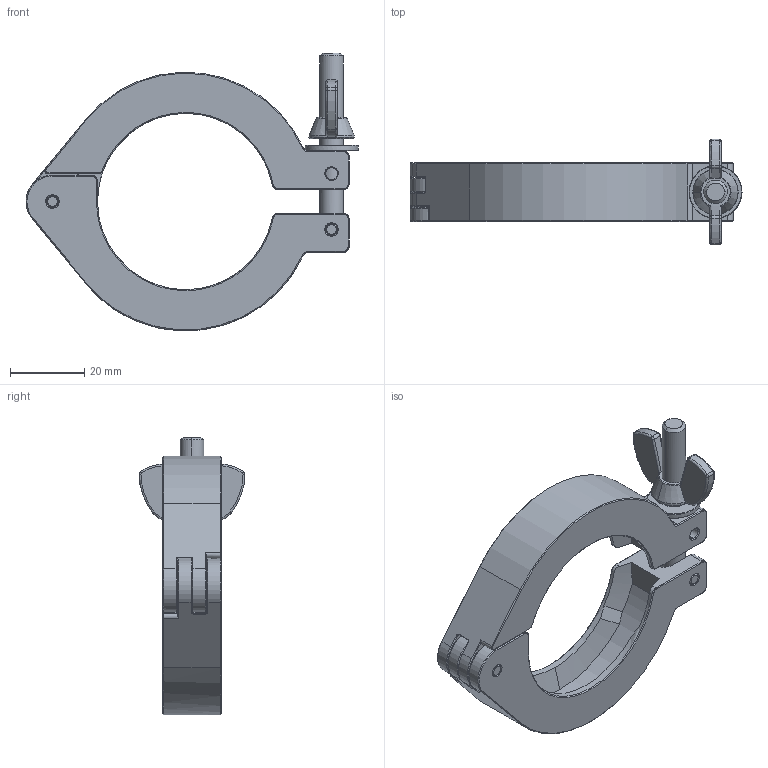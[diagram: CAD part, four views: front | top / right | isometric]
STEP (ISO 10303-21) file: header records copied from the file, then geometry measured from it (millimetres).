
FILE_DESCRIPTION (( 'STEP AP203' ), '1' );
FILE_NAME ('202225.stp', '2019-01-22T22:17:42', ( '' ), ( '' ), 'SwSTEP 2.0', 'SolidWorks 2012', '' );
FILE_SCHEMA (( 'CONFIG_CONTROL_DESIGN' ));
Length unit declared in the file: centimetre
Products named in the file (1): 202225
Bounding box: 89.66 x 28.57 x 75.01 mm (x, y, z)
Volume: 27031.8 mm3; surface area: 16606.2 mm2
Topology: 1 solids, 2 shells, 341 faces, 881 edges, 548 vertices
Faces by surface type: cone 117, plane 106, cylinder 78, bspline 40
Entity records: 15410 total; most frequent: CARTESIAN_POINT 7656, ORIENTED_EDGE 1758, DIRECTION 1381, EDGE_CURVE 879, VERTEX_POINT 548, AXIS2_PLACEMENT_3D 512, EDGE_LOOP 361, LINE 357
